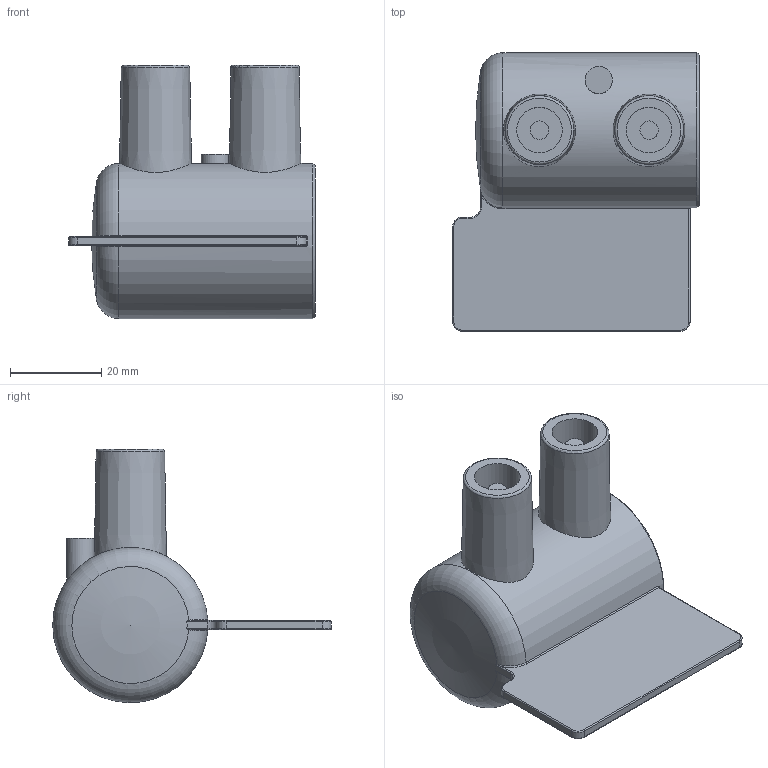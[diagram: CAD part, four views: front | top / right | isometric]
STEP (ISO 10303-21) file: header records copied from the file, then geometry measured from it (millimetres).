
FILE_DESCRIPTION(/* description */ ('Unknown'),/* implementation_level */ '2;1');
FILE_NAME(/* name */ 'CAEP025C',/* time_stamp */ '2021-02-11T10:10:37+01:00',/* author */ ('Unknown'),/* organization */ ('Unknown'),/* preprocessor_version */ 'ST-DEVELOPER v16.7',/* originating_system */ 'Solid Edge',/* authorisation */ 'Unknown');
FILE_SCHEMA (('AUTOMOTIVE_DESIGN {1 0 10303 214 3 1 1}'));
Length unit declared in the file: millimetre
Products named in the file (1): CAEP025C
Bounding box: 54 x 61 x 55.5 mm (x, y, z)
Volume: 31776.3 mm3; surface area: 16084.1 mm2
Topology: 1 solids, 1 shells, 72 faces, 161 edges, 98 vertices
Faces by surface type: cylinder 25, plane 21, torus 12, bspline 8, cone 5, sphere 1
Full cylindrical faces by diameter (mm): 4 x2, 6 x1, 10 x2, 25 x1, 34 x1
Entity records: 2002 total; most frequent: CARTESIAN_POINT 529, DIRECTION 312, ORIENTED_EDGE 272, EDGE_CURVE 136, AXIS2_PLACEMENT_3D 135, EDGE_LOOP 92, FACE_BOUND 92, VERTEX_POINT 88
